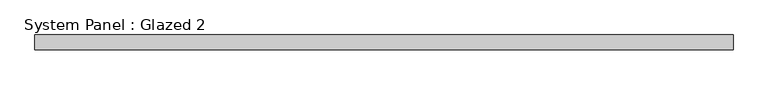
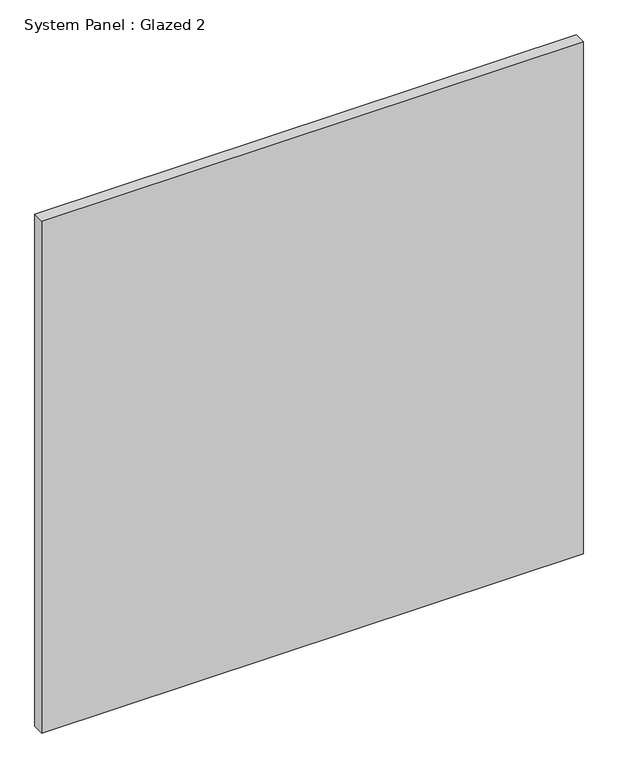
"""IFC4 building model written with IfcOpenShell, lengths in millimetres: plate geometry, System Panel : Glazed 2."""

from ifc_helpers import new_model, si_unit, origin, origin_with_axes, place, context, project, spatial, polyline, outline, extrude, source, transform, mapped, element, save


def system_panel_glazed_2_d5123a10(model_context):
    return source(origin(), model_context, "Body", "SweptSolid", [
        extrude(outline(polyline([(597.6, -44.45), (-597.6, -44.45), (-597.6, -19.05), (597.6, -19.05), (597.6, -44.45)])), origin_with_axes(), (0.0, 0.0, 1.0), 1193.8),
    ])


if __name__ == "__main__":
    model = new_model("IFC4")
    model_context = context("Model", 3, world=origin())
    ifc_project = project(units=[si_unit("LENGTHUNIT", "METRE", prefix="MILLI")], contexts=[model_context])
    site = spatial("IfcSite", under=ifc_project)
    building = spatial("IfcBuilding", under=site)
    placement = place(None, origin())
    system_panel_glazed_2_shape = system_panel_glazed_2_d5123a10(model_context)
    element("IfcPlate", 1, ObjectType="System Panel : Glazed 2", at=placement, inside=building, context=model_context, shape_type="MappedRepresentation", body=[
        mapped(system_panel_glazed_2_shape, transform((0.0, 0.0, 0.0), x_axis=(1.0, 0.0, 0.0), y_axis=(0.0, 1.0, 0.0), z_axis=(0.0, 0.0, 1.0))),
    ])
    save(model, "model.ifc")
